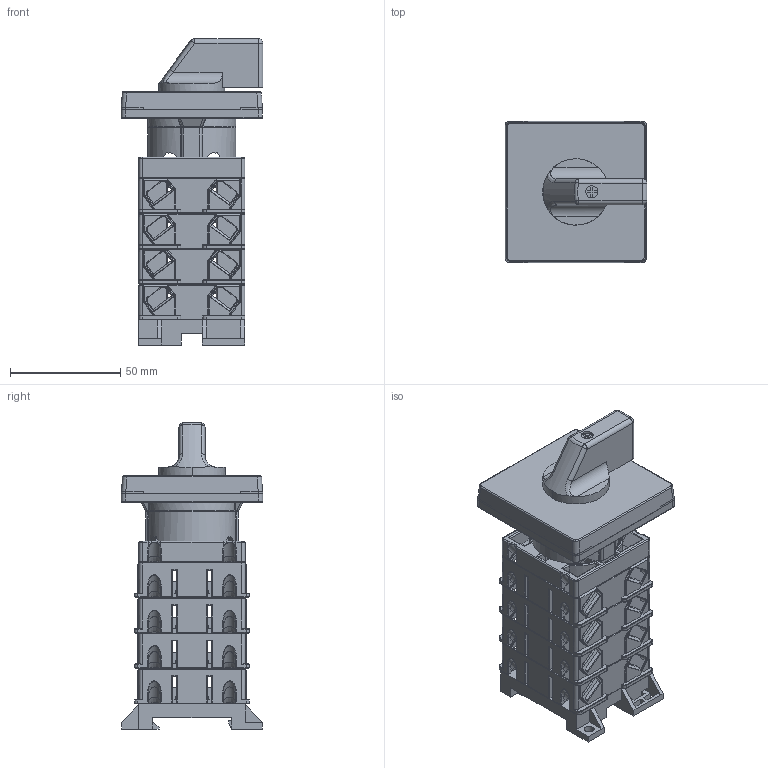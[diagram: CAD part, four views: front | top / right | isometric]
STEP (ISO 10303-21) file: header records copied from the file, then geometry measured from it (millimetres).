
FILE_DESCRIPTION (( 'STEP AP203' ), '1' );
FILE_NAME ('s 18 16-25À (4 ïàêåòà).STEP', '2015-12-08T10:16:50', ( '' ), ( '' ), 'SwSTEP 2.0', 'SolidWorks 2012', '' );
FILE_SCHEMA (( 'CONFIG_CONTROL_DESIGN' ));
Length unit declared in the file: millimetre
Products named in the file (8): s 18 16-25À (4 ïàêåòà); Ðóêîÿòêà 2; Ïàíåëü ïåðåäíÿÿ_ 2_00; 署赅 囵疱蜩痤忸黜铋 赅戾瘥 2; Êàìåðà àððåòèðîâî÷íàÿ 2; 署赅 觐眚嚓蝽铋 赅戾瘥 2; Êàìåðà êîíòàêòíàÿ_ 2_00; 牮赅 觐眚嚓蝽铋 赅戾瘥 s18
Assembly tree (10 placements, depth 2):
  s 18 16-25À (4 ïàêåòà)
    牮赅 觐眚嚓蝽铋 赅戾瘥 s18
    Êàìåðà êîíòàêòíàÿ_ 2_00  x4
    署赅 觐眚嚓蝽铋 赅戾瘥 2
    Êàìåðà àððåòèðîâî÷íàÿ 2
    署赅 囵疱蜩痤忸黜铋 赅戾瘥 2
    Ïàíåëü ïåðåäíÿÿ_ 2_00
    Ðóêîÿòêà 2
Bounding box: 64.21 x 64 x 138.6 mm (x, y, z)
Volume: 137903.4 mm3; surface area: 127193.4 mm2
Topology: 10 solids, 10 shells, 5476 faces, 14810 edges, 9337 vertices
Faces by surface type: plane 3043, cylinder 1732, torus 279, cone 255, bspline 87, sphere 80
Entity records: 91204 total; most frequent: CARTESIAN_POINT 20108, ORIENTED_EDGE 15060, DIRECTION 14425, EDGE_CURVE 7530, LINE 4953, VECTOR 4953, VERTEX_POINT 4759, AXIS2_PLACEMENT_3D 4736
